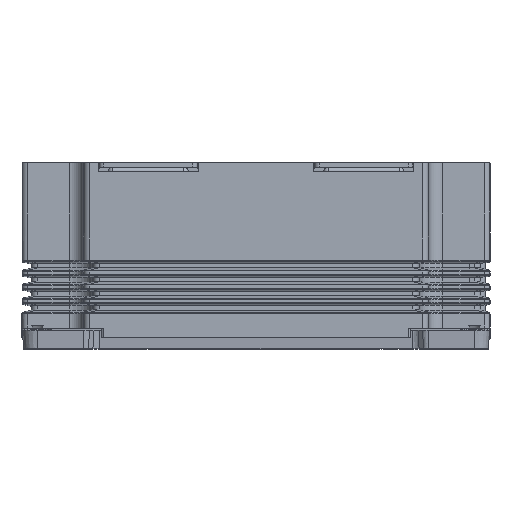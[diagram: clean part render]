
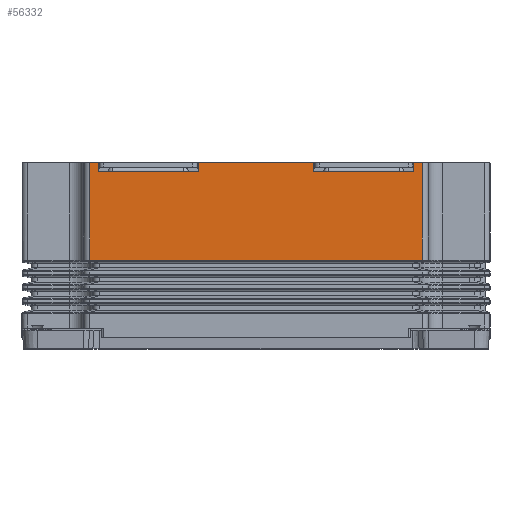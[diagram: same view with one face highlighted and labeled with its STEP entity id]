
A CAD part, top view. The second image highlights one B-rep face of the part: STEP entity #56332.
In plain terms, the highlighted planar face has unit normal (0, 0, 1).
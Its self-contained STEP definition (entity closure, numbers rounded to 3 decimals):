
#8307 = EDGE_CURVE ( 'NONE', #14948, #192044, #104982, .T. ) ;
#8664 = LINE ( 'NONE', #24295, #213313 ) ;
#8758 = ORIENTED_EDGE ( 'NONE', *, *, #28263, .T. ) ;
#8776 = LINE ( 'NONE', #82239, #162459 ) ;
#10475 = DIRECTION ( 'NONE',  ( 0., 1., 0. ) ) ;
#11945 = CARTESIAN_POINT ( 'NONE',  ( 35.469, 40.206, 70. ) ) ;
#13553 = EDGE_CURVE ( 'NONE', #74296, #201341, #8776, .T. ) ;
#14206 = VECTOR ( 'NONE', #99568, 1000. ) ;
#14386 = CARTESIAN_POINT ( 'NONE',  ( -35.333, 19.412, 70. ) ) ;
#14948 = VERTEX_POINT ( 'NONE', #211566 ) ;
#19115 = CARTESIAN_POINT ( 'NONE',  ( -35.423, 19.412, 70. ) ) ;
#22963 = DIRECTION ( 'NONE',  ( -1., 0., 0. ) ) ;
#24295 = CARTESIAN_POINT ( 'NONE',  ( -12.3, 19.616, 70. ) ) ;
#24997 = LINE ( 'NONE', #176516, #67902 ) ;
#28263 = EDGE_CURVE ( 'NONE', #67371, #178293, #8664, .T. ) ;
#29582 = LINE ( 'NONE', #216725, #147756 ) ;
#31840 = DIRECTION ( 'NONE',  ( 0., 1., 0. ) ) ;
#31949 = EDGE_CURVE ( 'NONE', #61411, #89040, #84206, .T. ) ;
#34092 = ORIENTED_EDGE ( 'NONE', *, *, #95852, .T. ) ;
#36335 = ORIENTED_EDGE ( 'NONE', *, *, #31949, .T. ) ;
#41734 = EDGE_CURVE ( 'NONE', #172882, #14948, #207326, .T. ) ;
#41894 = CARTESIAN_POINT ( 'NONE',  ( -35.47, 40.206, 70. ) ) ;
#42331 = VECTOR ( 'NONE', #164468, 1000. ) ;
#43092 = CARTESIAN_POINT ( 'NONE',  ( 33.7, 19.616, 70. ) ) ;
#44325 = DIRECTION ( 'NONE',  ( 0., -1., 0. ) ) ;
#46434 = CARTESIAN_POINT ( 'NONE',  ( -35.47, 38.224, 70. ) ) ;
#48585 = CARTESIAN_POINT ( 'NONE',  ( -33.7, 19.616, 70. ) ) ;
#51850 = EDGE_LOOP ( 'NONE', ( #92606, #34092, #141229, #99250, #174762, #88525, #144895, #87808, #8758, #137203, #36335, #192756, #106604, #178485 ) ) ;
#53309 = CARTESIAN_POINT ( 'NONE',  ( -35.468, 40.206, 70. ) ) ;
#54758 = CARTESIAN_POINT ( 'NONE',  ( -35.468, 19.616, 70. ) ) ;
#56332 = ADVANCED_FACE ( 'NONE', ( #188037 ), #69958, .T. ) ;
#59434 = AXIS2_PLACEMENT_3D ( 'NONE', #219231, #151305, #68859 ) ;
#61020 = LINE ( 'NONE', #147876, #204714 ) ;
#61411 = VERTEX_POINT ( 'NONE', #165220 ) ;
#64989 = CARTESIAN_POINT ( 'NONE',  ( 33.7, 40.206, 70. ) ) ;
#65850 = DIRECTION ( 'NONE',  ( 0., 1., 0. ) ) ;
#67371 = VERTEX_POINT ( 'NONE', #78336 ) ;
#67902 = VECTOR ( 'NONE', #10475, 1000. ) ;
#68352 = CARTESIAN_POINT ( 'NONE',  ( -35.47, 40.206, 70. ) ) ;
#68859 = DIRECTION ( 'NONE',  ( 1., 0., 0. ) ) ;
#69958 = PLANE ( 'NONE',  #59434 ) ;
#70334 = CARTESIAN_POINT ( 'NONE',  ( 35.469, 19.413, 70. ) ) ;
#70566 = EDGE_CURVE ( 'NONE', #192044, #170675, #29582, .T. ) ;
#74296 = VERTEX_POINT ( 'NONE', #120150 ) ;
#78336 = CARTESIAN_POINT ( 'NONE',  ( -12.3, 40.206, 70. ) ) ;
#82239 = CARTESIAN_POINT ( 'NONE',  ( -35.47, 38.224, 70. ) ) ;
#84206 = LINE ( 'NONE', #48585, #146212 ) ;
#87808 = ORIENTED_EDGE ( 'NONE', *, *, #202882, .T. ) ;
#88525 = ORIENTED_EDGE ( 'NONE', *, *, #13553, .T. ) ;
#89040 = VERTEX_POINT ( 'NONE', #123429 ) ;
#92295 = CARTESIAN_POINT ( 'NONE',  ( -35.333, 19.412, 70. ) ) ;
#92606 = ORIENTED_EDGE ( 'NONE', *, *, #70566, .T. ) ;
#95852 = EDGE_CURVE ( 'NONE', #170675, #125158, #114920, .T. ) ;
#97582 = DIRECTION ( 'NONE',  ( 1., 0., 0. ) ) ;
#99250 = ORIENTED_EDGE ( 'NONE', *, *, #126745, .T. ) ;
#99568 = DIRECTION ( 'NONE',  ( -1., 0., 0. ) ) ;
#99937 = EDGE_CURVE ( 'NONE', #178293, #61411, #112198, .T. ) ;
#102830 = VERTEX_POINT ( 'NONE', #199690 ) ;
#104982 =( BOUNDED_CURVE ( )  B_SPLINE_CURVE ( 3, ( #194733, #19115, #137217, #92295 ),
 .UNSPECIFIED., .F., .T. ) 
 B_SPLINE_CURVE_WITH_KNOTS ( ( 4, 4 ),
 ( 1.899, 1.918 ),
 .UNSPECIFIED. ) 
 CURVE ( )  GEOMETRIC_REPRESENTATION_ITEM ( )  RATIONAL_B_SPLINE_CURVE ( ( 1., 1., 1., 1. ) ) 
 REPRESENTATION_ITEM ( '' )  );
#106604 = ORIENTED_EDGE ( 'NONE', *, *, #41734, .T. ) ;
#112198 = LINE ( 'NONE', #46434, #42331 ) ;
#112686 = LINE ( 'NONE', #180614, #171227 ) ;
#114920 =( BOUNDED_CURVE ( )  B_SPLINE_CURVE ( 3, ( #145984, #181611, #162694, #161591 ),
 .UNSPECIFIED., .F., .F. ) 
 B_SPLINE_CURVE_WITH_KNOTS ( ( 4, 4 ),
 ( 1.223, 1.242 ),
 .UNSPECIFIED. ) 
 CURVE ( )  GEOMETRIC_REPRESENTATION_ITEM ( )  RATIONAL_B_SPLINE_CURVE ( ( 1., 1., 1., 1. ) ) 
 REPRESENTATION_ITEM ( '' )  );
#115161 = CARTESIAN_POINT ( 'NONE',  ( 35.334, 19.412, 70. ) ) ;
#120150 = CARTESIAN_POINT ( 'NONE',  ( 33.7, 38.224, 70. ) ) ;
#122708 = DIRECTION ( 'NONE',  ( 0., -1., 0. ) ) ;
#123429 = CARTESIAN_POINT ( 'NONE',  ( -33.7, 40.206, 70. ) ) ;
#125158 = VERTEX_POINT ( 'NONE', #70334 ) ;
#126745 = EDGE_CURVE ( 'NONE', #147823, #136057, #61020, .T. ) ;
#127605 = VECTOR ( 'NONE', #146632, 1000. ) ;
#127747 = LINE ( 'NONE', #43092, #127605 ) ;
#136057 = VERTEX_POINT ( 'NONE', #64989 ) ;
#137203 = ORIENTED_EDGE ( 'NONE', *, *, #99937, .T. ) ;
#137217 = CARTESIAN_POINT ( 'NONE',  ( -35.378, 19.412, 70. ) ) ;
#141229 = ORIENTED_EDGE ( 'NONE', *, *, #198807, .T. ) ;
#144895 = ORIENTED_EDGE ( 'NONE', *, *, #168236, .T. ) ;
#145984 = CARTESIAN_POINT ( 'NONE',  ( 35.334, 19.412, 70. ) ) ;
#146212 = VECTOR ( 'NONE', #31840, 1000. ) ;
#146632 = DIRECTION ( 'NONE',  ( 0., -1., 0. ) ) ;
#147756 = VECTOR ( 'NONE', #97582, 1000. ) ;
#147823 = VERTEX_POINT ( 'NONE', #11945 ) ;
#147876 = CARTESIAN_POINT ( 'NONE',  ( 34.373, 40.206, 70. ) ) ;
#150162 = DIRECTION ( 'NONE',  ( -1., 0., 0. ) ) ;
#151305 = DIRECTION ( 'NONE',  ( 0., 0., 1. ) ) ;
#158532 = CARTESIAN_POINT ( 'NONE',  ( -12.3, 38.224, 70. ) ) ;
#161591 = CARTESIAN_POINT ( 'NONE',  ( 35.469, 19.413, 70. ) ) ;
#162459 = VECTOR ( 'NONE', #150162, 1000. ) ;
#162694 = CARTESIAN_POINT ( 'NONE',  ( 35.424, 19.412, 70. ) ) ;
#164468 = DIRECTION ( 'NONE',  ( -1., 0., 0. ) ) ;
#165220 = CARTESIAN_POINT ( 'NONE',  ( -33.7, 38.224, 70. ) ) ;
#165331 = CARTESIAN_POINT ( 'NONE',  ( 12.3, 38.224, 70. ) ) ;
#168236 = EDGE_CURVE ( 'NONE', #201341, #102830, #24997, .T. ) ;
#170675 = VERTEX_POINT ( 'NONE', #115161 ) ;
#171227 = VECTOR ( 'NONE', #65850, 1000. ) ;
#172882 = VERTEX_POINT ( 'NONE', #53309 ) ;
#174615 = VECTOR ( 'NONE', #122708, 1000. ) ;
#174762 = ORIENTED_EDGE ( 'NONE', *, *, #182540, .T. ) ;
#176516 = CARTESIAN_POINT ( 'NONE',  ( 12.3, 19.616, 70. ) ) ;
#178293 = VERTEX_POINT ( 'NONE', #158532 ) ;
#178485 = ORIENTED_EDGE ( 'NONE', *, *, #8307, .T. ) ;
#180614 = CARTESIAN_POINT ( 'NONE',  ( 35.469, 19.616, 70. ) ) ;
#181611 = CARTESIAN_POINT ( 'NONE',  ( 35.379, 19.412, 70. ) ) ;
#182540 = EDGE_CURVE ( 'NONE', #136057, #74296, #127747, .T. ) ;
#188037 = FACE_OUTER_BOUND ( 'NONE', #51850, .T. ) ;
#192044 = VERTEX_POINT ( 'NONE', #14386 ) ;
#192756 = ORIENTED_EDGE ( 'NONE', *, *, #213666, .T. ) ;
#194733 = CARTESIAN_POINT ( 'NONE',  ( -35.468, 19.413, 70. ) ) ;
#198807 = EDGE_CURVE ( 'NONE', #125158, #147823, #112686, .T. ) ;
#199116 = DIRECTION ( 'NONE',  ( -1., 0., 0. ) ) ;
#199690 = CARTESIAN_POINT ( 'NONE',  ( 12.3, 40.206, 70. ) ) ;
#199828 = LINE ( 'NONE', #68352, #14206 ) ;
#201341 = VERTEX_POINT ( 'NONE', #165331 ) ;
#202882 = EDGE_CURVE ( 'NONE', #102830, #67371, #212268, .T. ) ;
#204714 = VECTOR ( 'NONE', #199116, 1000. ) ;
#207140 = VECTOR ( 'NONE', #22963, 1000. ) ;
#207326 = LINE ( 'NONE', #54758, #174615 ) ;
#211566 = CARTESIAN_POINT ( 'NONE',  ( -35.468, 19.413, 70. ) ) ;
#212268 = LINE ( 'NONE', #41894, #207140 ) ;
#213313 = VECTOR ( 'NONE', #44325, 1000. ) ;
#213666 = EDGE_CURVE ( 'NONE', #89040, #172882, #199828, .T. ) ;
#216725 = CARTESIAN_POINT ( 'NONE',  ( -35.47, 19.412, 70. ) ) ;
#219231 = CARTESIAN_POINT ( 'NONE',  ( -35.47, 19.616, 70. ) ) ;
